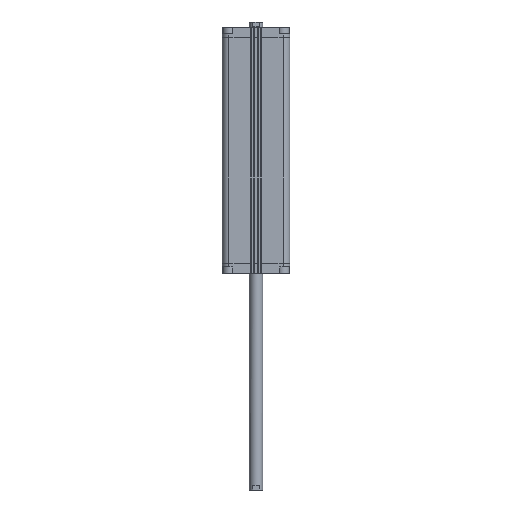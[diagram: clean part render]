
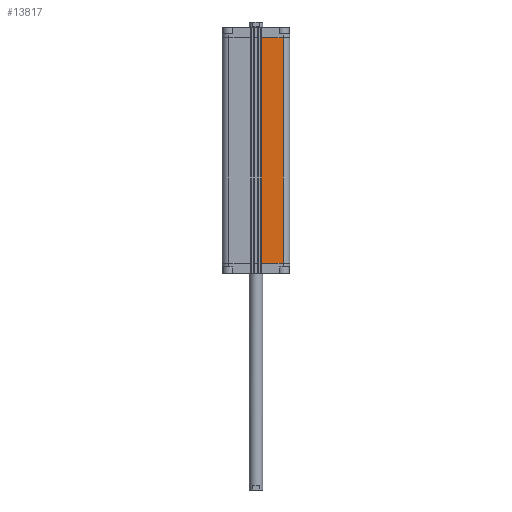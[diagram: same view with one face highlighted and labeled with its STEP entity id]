
A CAD part, front view. The second image highlights one B-rep face of the part: STEP entity #13817.
In plain terms, the highlighted planar face has unit normal (0, -1, 0).
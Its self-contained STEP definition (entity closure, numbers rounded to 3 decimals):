
#5 = CARTESIAN_POINT ( 'NONE',  ( 9.95, -64., -447. ) ) ;
#123 = VECTOR ( 'NONE', #6260, 1000. ) ;
#815 = VERTEX_POINT ( 'NONE', #5 ) ;
#1838 = DIRECTION ( 'NONE',  ( 0., 0., 1. ) ) ;
#1886 = VERTEX_POINT ( 'NONE', #11191 ) ;
#2017 = ORIENTED_EDGE ( 'NONE', *, *, #17468, .F. ) ;
#3152 = VERTEX_POINT ( 'NONE', #9400 ) ;
#4000 = AXIS2_PLACEMENT_3D ( 'NONE', #20610, #18673, #4193 ) ;
#4193 = DIRECTION ( 'NONE',  ( -1., 0., 0. ) ) ;
#4937 = DIRECTION ( 'NONE',  ( 0., 0., 1. ) ) ;
#5210 = DIRECTION ( 'NONE',  ( 1., 0., 0. ) ) ;
#6260 = DIRECTION ( 'NONE',  ( 1., 0., 0. ) ) ;
#7025 = VERTEX_POINT ( 'NONE', #18943 ) ;
#7085 = VECTOR ( 'NONE', #4937, 1000. ) ;
#7866 = LINE ( 'NONE', #9490, #123 ) ;
#8689 = FACE_OUTER_BOUND ( 'NONE', #18944, .T. ) ;
#9400 = CARTESIAN_POINT ( 'NONE',  ( 9.95, -64., -19.5 ) ) ;
#9490 = CARTESIAN_POINT ( 'NONE',  ( 9.95, -64., -447. ) ) ;
#10121 = EDGE_CURVE ( 'NONE', #815, #1886, #7866, .T. ) ;
#10386 = VECTOR ( 'NONE', #1838, 1000. ) ;
#11191 = CARTESIAN_POINT ( 'NONE',  ( 51.5, -64., -447. ) ) ;
#11584 = CARTESIAN_POINT ( 'NONE',  ( 9.95, -64., -447. ) ) ;
#12820 = ORIENTED_EDGE ( 'NONE', *, *, #15805, .T. ) ;
#13817 = ADVANCED_FACE ( 'NONE', ( #8689 ), #13942, .T. ) ;
#13942 = PLANE ( 'NONE',  #4000 ) ;
#14484 = EDGE_CURVE ( 'NONE', #3152, #7025, #18198, .T. ) ;
#14798 = LINE ( 'NONE', #11584, #7085 ) ;
#15609 = ORIENTED_EDGE ( 'NONE', *, *, #14484, .F. ) ;
#15805 = EDGE_CURVE ( 'NONE', #1886, #7025, #16541, .T. ) ;
#16324 = CARTESIAN_POINT ( 'NONE',  ( 51.5, -64., -447. ) ) ;
#16541 = LINE ( 'NONE', #16324, #10386 ) ;
#17363 = ORIENTED_EDGE ( 'NONE', *, *, #10121, .T. ) ;
#17468 = EDGE_CURVE ( 'NONE', #815, #3152, #14798, .T. ) ;
#18198 = LINE ( 'NONE', #21210, #19953 ) ;
#18673 = DIRECTION ( 'NONE',  ( 0., -1., 0. ) ) ;
#18943 = CARTESIAN_POINT ( 'NONE',  ( 51.5, -64., -19.5 ) ) ;
#18944 = EDGE_LOOP ( 'NONE', ( #15609, #2017, #17363, #12820 ) ) ;
#19953 = VECTOR ( 'NONE', #5210, 1000. ) ;
#20610 = CARTESIAN_POINT ( 'NONE',  ( 9.95, -64., -447. ) ) ;
#21210 = CARTESIAN_POINT ( 'NONE',  ( 9.95, -64., -19.5 ) ) ;
